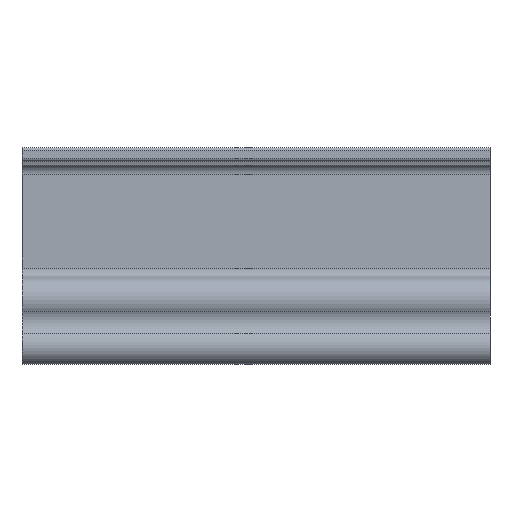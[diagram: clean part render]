
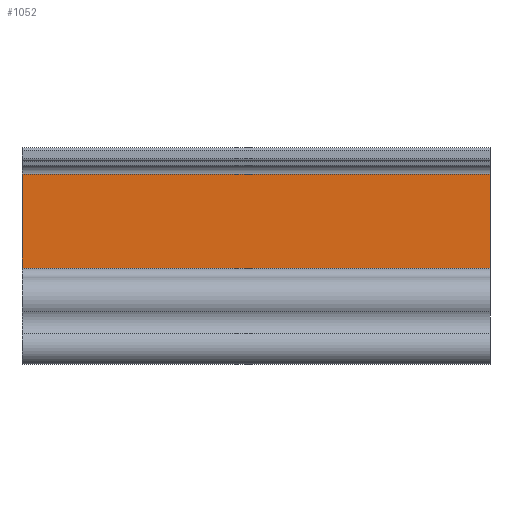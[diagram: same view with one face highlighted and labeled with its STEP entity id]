
A CAD part, top view. The second image highlights one B-rep face of the part: STEP entity #1052.
In plain terms, the highlighted planar face has unit normal (0, 0, 1).
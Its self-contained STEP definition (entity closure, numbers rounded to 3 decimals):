
#1025=AXIS2_PLACEMENT_3D('Plane Axis2P3D',#1022,#1023,#1024) ;
#1000=CARTESIAN_POINT('Vertex',(-50.,44.935,-4.155)) ;
#1003=CARTESIAN_POINT('Line Origine',(-25.,44.935,-4.155)) ;
#1007=CARTESIAN_POINT('Vertex',(0.,44.935,-4.155)) ;
#1022=CARTESIAN_POINT('Axis2P3D Location',(0.,44.935,-4.155)) ;
#1027=CARTESIAN_POINT('Line Origine',(-50.,39.935,-4.155)) ;
#1031=CARTESIAN_POINT('Vertex',(-50.,34.935,-4.155)) ;
#1034=CARTESIAN_POINT('Line Origine',(-25.,34.935,-4.155)) ;
#1038=CARTESIAN_POINT('Vertex',(0.,34.935,-4.155)) ;
#1041=CARTESIAN_POINT('Line Origine',(0.,39.935,-4.155)) ;
#1004=DIRECTION('Vector Direction',(1.,0.,0.)) ;
#1023=DIRECTION('Axis2P3D Direction',(0.,0.,-1.)) ;
#1024=DIRECTION('Axis2P3D XDirection',(-0.,-1.,0.)) ;
#1028=DIRECTION('Vector Direction',(0.,-1.,0.)) ;
#1035=DIRECTION('Vector Direction',(-1.,0.,0.)) ;
#1042=DIRECTION('Vector Direction',(0.,-1.,0.)) ;
#1005=VECTOR('Line Direction',#1004,1.) ;
#1029=VECTOR('Line Direction',#1028,1.) ;
#1036=VECTOR('Line Direction',#1035,1.) ;
#1043=VECTOR('Line Direction',#1042,1.) ;
#1047=ORIENTED_EDGE('',*,*,#1033,.T.) ;
#1048=ORIENTED_EDGE('',*,*,#1040,.F.) ;
#1049=ORIENTED_EDGE('',*,*,#1045,.F.) ;
#1050=ORIENTED_EDGE('',*,*,#1009,.T.) ;
#1052=ADVANCED_FACE('PartBody',(#1051),#1026,.F.) ;
#1009=EDGE_CURVE('',#1008,#1001,#1006,.F.) ;
#1033=EDGE_CURVE('',#1001,#1032,#1030,.T.) ;
#1040=EDGE_CURVE('',#1039,#1032,#1037,.T.) ;
#1045=EDGE_CURVE('',#1008,#1039,#1044,.T.) ;
#1046=EDGE_LOOP('',(#1047,#1048,#1049,#1050)) ;
#1051=FACE_OUTER_BOUND('',#1046,.T.) ;
#1006=LINE('Line',#1003,#1005) ;
#1030=LINE('Line',#1027,#1029) ;
#1037=LINE('Line',#1034,#1036) ;
#1044=LINE('Line',#1041,#1043) ;
#1026=PLANE('',#1025) ;
#1001=VERTEX_POINT('',#1000) ;
#1008=VERTEX_POINT('',#1007) ;
#1032=VERTEX_POINT('',#1031) ;
#1039=VERTEX_POINT('',#1038) ;
